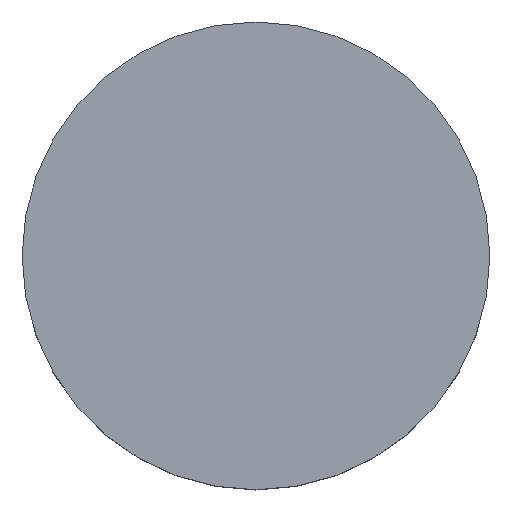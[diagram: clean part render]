
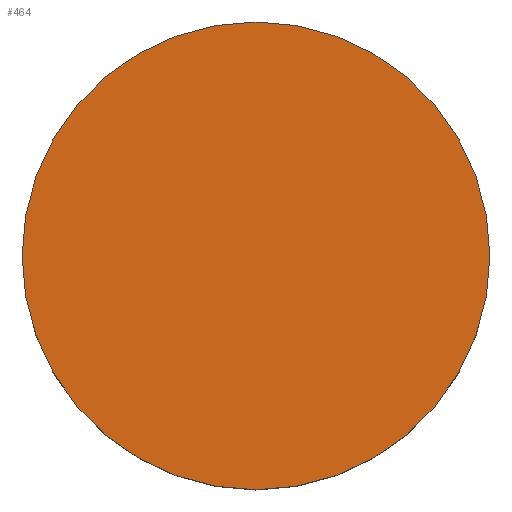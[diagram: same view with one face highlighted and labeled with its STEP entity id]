
A CAD part, top view. The second image highlights one B-rep face of the part: STEP entity #464.
In plain terms, the highlighted planar face has unit normal (0, 0, 1).
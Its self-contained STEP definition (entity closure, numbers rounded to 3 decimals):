
#306 = CYLINDRICAL_SURFACE('',#307,5.);
#307 = AXIS2_PLACEMENT_3D('',#308,#309,#310);
#308 = CARTESIAN_POINT('',(5.7,2.9,87.));
#309 = DIRECTION('',(0.,0.,1.));
#310 = DIRECTION('',(1.,0.,-0.));
#359 = EDGE_CURVE('',#360,#360,#362,.T.);
#360 = VERTEX_POINT('',#361);
#361 = CARTESIAN_POINT('',(10.7,2.9,90.));
#362 = SURFACE_CURVE('',#363,(#368,#375),.PCURVE_S1.);
#363 = CIRCLE('',#364,5.);
#364 = AXIS2_PLACEMENT_3D('',#365,#366,#367);
#365 = CARTESIAN_POINT('',(5.7,2.9,90.));
#366 = DIRECTION('',(0.,0.,1.));
#367 = DIRECTION('',(1.,0.,-0.));
#368 = PCURVE('',#306,#369);
#369 = DEFINITIONAL_REPRESENTATION('',(#370),#374);
#370 = LINE('',#371,#372);
#371 = CARTESIAN_POINT('',(0.,3.));
#372 = VECTOR('',#373,1.);
#373 = DIRECTION('',(1.,0.));
#374 = ( GEOMETRIC_REPRESENTATION_CONTEXT(2) 
PARAMETRIC_REPRESENTATION_CONTEXT() REPRESENTATION_CONTEXT('2D SPACE',''
  ) );
#375 = PCURVE('',#376,#381);
#376 = PLANE('',#377);
#377 = AXIS2_PLACEMENT_3D('',#378,#379,#380);
#378 = CARTESIAN_POINT('',(5.7,2.9,90.));
#379 = DIRECTION('',(0.,0.,1.));
#380 = DIRECTION('',(1.,0.,-0.));
#381 = DEFINITIONAL_REPRESENTATION('',(#382),#386);
#382 = CIRCLE('',#383,5.);
#383 = AXIS2_PLACEMENT_2D('',#384,#385);
#384 = CARTESIAN_POINT('',(0.,0.));
#385 = DIRECTION('',(1.,0.));
#386 = ( GEOMETRIC_REPRESENTATION_CONTEXT(2) 
PARAMETRIC_REPRESENTATION_CONTEXT() REPRESENTATION_CONTEXT('2D SPACE',''
  ) );
#464 = ADVANCED_FACE('',(#465),#376,.T.);
#465 = FACE_BOUND('',#466,.T.);
#466 = EDGE_LOOP('',(#467));
#467 = ORIENTED_EDGE('',*,*,#359,.T.);
